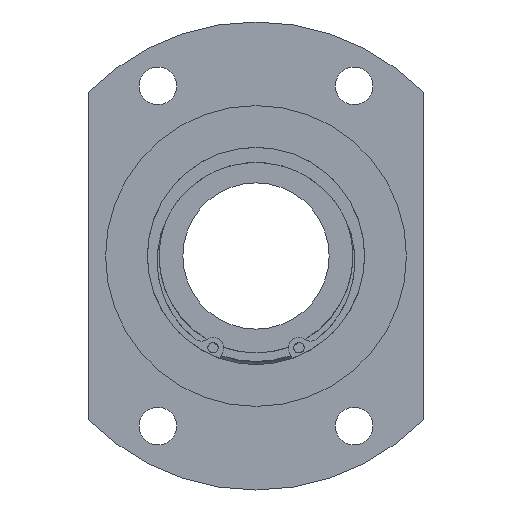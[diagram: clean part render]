
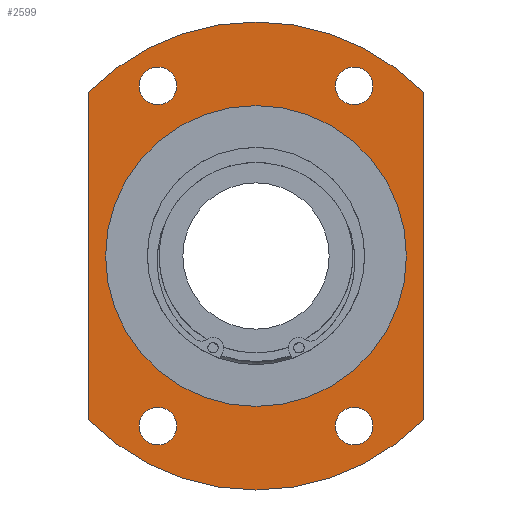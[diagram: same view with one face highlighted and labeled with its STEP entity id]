
A CAD part, left-side view. The second image highlights one B-rep face of the part: STEP entity #2599.
In plain terms, the highlighted planar face has unit normal (-1, 0, 0).
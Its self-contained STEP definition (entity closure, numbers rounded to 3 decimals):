
#2359=CARTESIAN_POINT('',(13.0,28.,-40.703));
#2360=VERTEX_POINT('',#2359);
#2361=CARTESIAN_POINT('',(13.,23.5,-40.703));
#2362=DIRECTION('',(1.0,0.0,0.0));
#2363=DIRECTION('',(0.0,1.0,0.0));
#2364=AXIS2_PLACEMENT_3D('',#2361,#2362,#2363);
#2365=CIRCLE('',#2364,4.5);
#2366=EDGE_CURVE('',#2360,#2360,#2365,.T.);
#2387=CARTESIAN_POINT('',(13.0,-19.0,40.703));
#2388=VERTEX_POINT('',#2387);
#2389=CARTESIAN_POINT('',(13.,-23.5,40.703));
#2390=DIRECTION('',(1.0,0.0,0.0));
#2391=DIRECTION('',(0.0,1.0,0.0));
#2392=AXIS2_PLACEMENT_3D('',#2389,#2390,#2391);
#2393=CIRCLE('',#2392,4.5);
#2394=EDGE_CURVE('',#2388,#2388,#2393,.T.);
#2415=CARTESIAN_POINT('',(13.0,28.,40.703));
#2416=VERTEX_POINT('',#2415);
#2417=CARTESIAN_POINT('',(13.,23.5,40.703));
#2418=DIRECTION('',(1.0,0.0,0.0));
#2419=DIRECTION('',(0.0,1.0,0.0));
#2420=AXIS2_PLACEMENT_3D('',#2417,#2418,#2419);
#2421=CIRCLE('',#2420,4.5);
#2422=EDGE_CURVE('',#2416,#2416,#2421,.T.);
#2443=CARTESIAN_POINT('',(13.0,-19.,-40.703));
#2444=VERTEX_POINT('',#2443);
#2445=CARTESIAN_POINT('',(13.,-23.5,-40.703));
#2446=DIRECTION('',(1.0,0.0,0.0));
#2447=DIRECTION('',(0.0,1.0,0.0));
#2448=AXIS2_PLACEMENT_3D('',#2445,#2446,#2447);
#2449=CIRCLE('',#2448,4.5);
#2450=EDGE_CURVE('',#2444,#2444,#2449,.T.);
#2470=CARTESIAN_POINT('',(13.0,40.,-39.192));
#2471=VERTEX_POINT('',#2470);
#2478=CARTESIAN_POINT('',(13.0,40.,39.192));
#2479=VERTEX_POINT('',#2478);
#2480=CARTESIAN_POINT('',(13.0,40.,39.192));
#2481=DIRECTION('',(0.0,0.0,-1.0));
#2482=VECTOR('',#2481,78.384);
#2483=LINE('',#2480,#2482);
#2484=EDGE_CURVE('',#2479,#2471,#2483,.T.);
#2510=CARTESIAN_POINT('',(13.0,-40.0,39.192));
#2511=VERTEX_POINT('',#2510);
#2518=CARTESIAN_POINT('',(13.0,-40.,-39.192));
#2519=VERTEX_POINT('',#2518);
#2520=CARTESIAN_POINT('',(13.0,-40.,-39.192));
#2521=DIRECTION('',(0.0,0.0,1.0));
#2522=VECTOR('',#2521,78.384);
#2523=LINE('',#2520,#2522);
#2524=EDGE_CURVE('',#2519,#2511,#2523,.T.);
#2549=CARTESIAN_POINT('',(13.,0.0,0.0));
#2550=DIRECTION('',(-1.0,0.0,0.0));
#2551=DIRECTION('',(0.0,0.0,1.0));
#2552=AXIS2_PLACEMENT_3D('',#2549,#2550,#2551);
#2553=CIRCLE('',#2552,56.);
#2554=EDGE_CURVE('',#2471,#2519,#2553,.T.);
#2559=CARTESIAN_POINT('',(13.,0.0,46.));
#2560=DIRECTION('',(-1.0,0.0,0.0));
#2561=DIRECTION('',(0.0,0.0,1.0));
#2562=AXIS2_PLACEMENT_3D('',#2559,#2560,#2561);
#2563=PLANE('',#2562);
#2564=ORIENTED_EDGE('',*,*,#2484,.T.);
#2565=ORIENTED_EDGE('',*,*,#2554,.T.);
#2566=ORIENTED_EDGE('',*,*,#2524,.T.);
#2567=CARTESIAN_POINT('',(13.,0.0,0.0));
#2568=DIRECTION('',(-1.0,0.0,0.0));
#2569=DIRECTION('',(0.0,0.0,1.0));
#2570=AXIS2_PLACEMENT_3D('',#2567,#2568,#2569);
#2571=CIRCLE('',#2570,56.);
#2572=EDGE_CURVE('',#2511,#2479,#2571,.T.);
#2573=ORIENTED_EDGE('',*,*,#2572,.T.);
#2574=EDGE_LOOP('',(#2564,#2565,#2566,#2573));
#2575=FACE_OUTER_BOUND('',#2574,.T.);
#2576=ORIENTED_EDGE('',*,*,#2366,.T.);
#2577=EDGE_LOOP('',(#2576));
#2578=FACE_BOUND('',#2577,.T.);
#2579=ORIENTED_EDGE('',*,*,#2394,.T.);
#2580=EDGE_LOOP('',(#2579));
#2581=FACE_BOUND('',#2580,.T.);
#2582=ORIENTED_EDGE('',*,*,#2422,.T.);
#2583=EDGE_LOOP('',(#2582));
#2584=FACE_BOUND('',#2583,.T.);
#2585=ORIENTED_EDGE('',*,*,#2450,.T.);
#2586=EDGE_LOOP('',(#2585));
#2587=FACE_BOUND('',#2586,.T.);
#2588=CARTESIAN_POINT('',(13.,0.0,36.));
#2589=VERTEX_POINT('',#2588);
#2590=CARTESIAN_POINT('',(13.,0.0,0.0));
#2591=DIRECTION('',(-1.0,0.0,0.0));
#2592=DIRECTION('',(0.0,0.0,1.0));
#2593=AXIS2_PLACEMENT_3D('',#2590,#2591,#2592);
#2594=CIRCLE('',#2593,36.);
#2595=EDGE_CURVE('',#2589,#2589,#2594,.T.);
#2596=ORIENTED_EDGE('',*,*,#2595,.F.);
#2597=EDGE_LOOP('',(#2596));
#2598=FACE_BOUND('',#2597,.T.);
#2599=ADVANCED_FACE('',(#2575,#2578,#2581,#2584,#2587,#2598),#2563,.T.);
